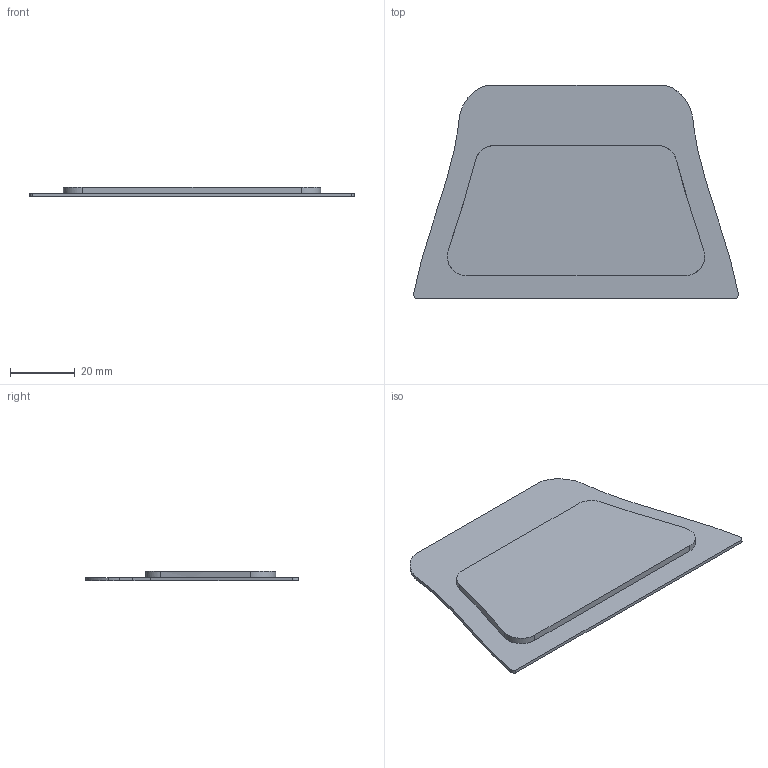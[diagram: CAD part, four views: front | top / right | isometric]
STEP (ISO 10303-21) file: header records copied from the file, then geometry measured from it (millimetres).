
FILE_DESCRIPTION(/* description */ (''),/* implementation_level */ '2;1');
FILE_NAME(/* name */ 'FootPrint.step',/* time_stamp */ '2026-05-18T03:05:03+01:00',/* author */ (''),/* organization */ (''),/* preprocessor_version */ 'ST-DEVELOPER v20.1',/* originating_system */ 'Autodesk Translation Framework v15.8.0.0',/* authorisation */ '');
FILE_SCHEMA (('AUTOMOTIVE_DESIGN { 1 0 10303 214 3 1 1 }'));
Length unit declared in the file: millimetre
Products named in the file (1): Steamdeck controller dock
Bounding box: 99.83 x 65.68 x 3 mm (x, y, z)
Volume: 11031.5 mm3; surface area: 11575.7 mm2
Topology: 1 solids, 1 shells, 25 faces, 66 edges, 44 vertices
Faces by surface type: bspline 18, plane 7
Entity records: 1192 total; most frequent: CARTESIAN_POINT 658, ORIENTED_EDGE 132, EDGE_CURVE 66, DIRECTION 46, VERTEX_POINT 44, B_SPLINE_CURVE_WITH_KNOTS 36, LINE 30, VECTOR 30
